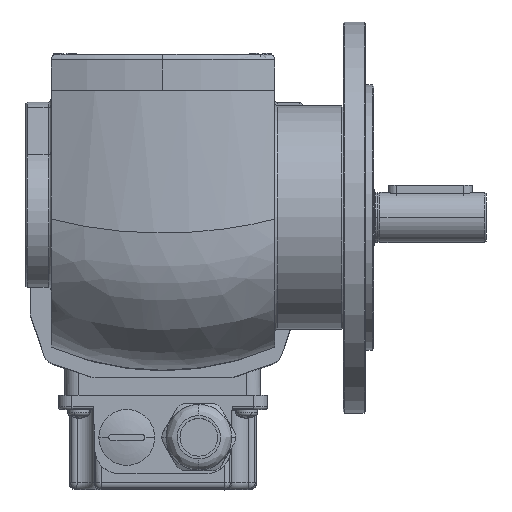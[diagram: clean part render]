
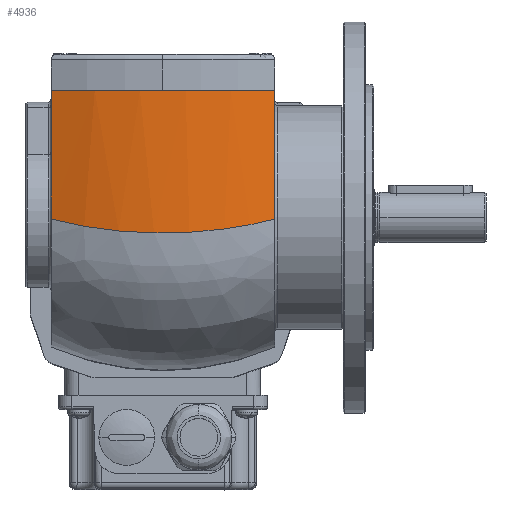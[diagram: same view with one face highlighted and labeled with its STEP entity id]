
A CAD part, top view. The second image highlights one B-rep face of the part: STEP entity #4936.
In plain terms, the highlighted cylindrical face has radius 109 mm (diameter 218 mm), a partial arc.
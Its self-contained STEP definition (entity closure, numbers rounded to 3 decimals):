
#343 = CYLINDRICAL_SURFACE ( 'NONE', #7375, 109. ) ;
#662 = FACE_OUTER_BOUND ( 'NONE', #7578, .T. ) ;
#799 = AXIS2_PLACEMENT_3D ( 'NONE', #12264, #5634, #17336 ) ;
#1603 = CARTESIAN_POINT ( 'NONE',  ( 5.074, 126.189, 26.289 ) ) ;
#1746 = CARTESIAN_POINT ( 'NONE',  ( 0.602, 119.395, 0. ) ) ;
#2009 = CARTESIAN_POINT ( 'NONE',  ( 54.6, 119.395, 0. ) ) ;
#3920 = CARTESIAN_POINT ( 'NONE',  ( 0.602, 119.395, 80. ) ) ;
#4072 = CARTESIAN_POINT ( 'NONE',  ( 3.088, 123.148, 68.771 ) ) ;
#4378 = CARTESIAN_POINT ( 'NONE',  ( 3.083, 123.141, 11.203 ) ) ;
#4529 = CARTESIAN_POINT ( 'NONE',  ( 4.76, 125.705, 22.898 ) ) ;
#4936 = ADVANCED_FACE ( 'NONE', ( #662 ), #343, .T. ) ;
#5227 = EDGE_CURVE ( 'NONE', #20145, #10106, #30149, .T. ) ;
#5524 = EDGE_CURVE ( 'NONE', #24273, #27996, #23431, .T. ) ;
#5634 = DIRECTION ( 'NONE',  ( 1., 0., 0. ) ) ;
#6367 = CARTESIAN_POINT ( 'NONE',  ( 3.762, 124.176, 15.335 ) ) ;
#6524 = CARTESIAN_POINT ( 'NONE',  ( 4.132, 124.742, 62.139 ) ) ;
#6824 = CARTESIAN_POINT ( 'NONE',  ( 5.494, 126.836, 33.111 ) ) ;
#7375 = AXIS2_PLACEMENT_3D ( 'NONE', #23864, #19112, #17116 ) ;
#7479 = EDGE_CURVE ( 'NONE', #10106, #27996, #16988, .T. ) ;
#7578 = EDGE_LOOP ( 'NONE', ( #30370, #19219, #22261, #18336 ) ) ;
#7880 = CARTESIAN_POINT ( 'NONE',  ( 0.602, 119.395, 0. ) ) ;
#8853 = VECTOR ( 'NONE', #9104, 1000. ) ;
#9006 = CARTESIAN_POINT ( 'NONE',  ( 3.37, 123.577, 12.846 ) ) ;
#9104 = DIRECTION ( 'NONE',  ( -1., 0., 0. ) ) ;
#9142 = B_SPLINE_CURVE_WITH_KNOTS ( 'NONE', 3,
 ( #3920, #15892, #20526, #4072, #30043, #16047, #6524, #13282, #30355, #25430, #25266, #28049, #30194, #9311, #6824, #1603, #4529, #20361, #25579, #27729, #6367, #9006, #4378, #16204, #27437, #1746 ),
 .UNSPECIFIED., .F., .F.,
 ( 4, 2, 2, 2, 2, 2, 2, 2, 2, 2, 2, 2, 4 ),
 ( 0., 0.01, 0.016, 0.021, 0.031, 0.036, 0.041, 0.052, 0.062, 0.065, 0.067, 0.073, 0.083 ),
 .UNSPECIFIED. ) ;
#9311 = CARTESIAN_POINT ( 'NONE',  ( 5.6, 127., 36.543 ) ) ;
#10106 = VERTEX_POINT ( 'NONE', #15599 ) ;
#12264 = CARTESIAN_POINT ( 'NONE',  ( -45.4, 18., 40. ) ) ;
#13282 = CARTESIAN_POINT ( 'NONE',  ( 4.758, 125.702, 57.117 ) ) ;
#14089 = CARTESIAN_POINT ( 'NONE',  ( 0.602, 119.395, 80. ) ) ;
#15599 = CARTESIAN_POINT ( 'NONE',  ( -45.4, 119.395, 0. ) ) ;
#15892 = CARTESIAN_POINT ( 'NONE',  ( 1.427, 120.63, 76.871 ) ) ;
#16047 = CARTESIAN_POINT ( 'NONE',  ( 3.897, 124.383, 63.804 ) ) ;
#16204 = CARTESIAN_POINT ( 'NONE',  ( 2.149, 121.722, 6.321 ) ) ;
#16949 = CARTESIAN_POINT ( 'NONE',  ( -45.4, 119.395, 80. ) ) ;
#16988 = CIRCLE ( 'NONE', #799, 109. ) ;
#17116 = DIRECTION ( 'NONE',  ( 0., 0., 1. ) ) ;
#17206 = VECTOR ( 'NONE', #18685, 1000. ) ;
#17336 = DIRECTION ( 'NONE',  ( 0., 0., 1. ) ) ;
#18336 = ORIENTED_EDGE ( 'NONE', *, *, #7479, .T. ) ;
#18685 = DIRECTION ( 'NONE',  ( -1., 0., 0. ) ) ;
#19112 = DIRECTION ( 'NONE',  ( -1., 0., 0. ) ) ;
#19219 = ORIENTED_EDGE ( 'NONE', *, *, #30347, .T. ) ;
#20145 = VERTEX_POINT ( 'NONE', #7880 ) ;
#20361 = CARTESIAN_POINT ( 'NONE',  ( 4.234, 124.899, 18.685 ) ) ;
#20526 = CARTESIAN_POINT ( 'NONE',  ( 2.151, 121.724, 73.673 ) ) ;
#22261 = ORIENTED_EDGE ( 'NONE', *, *, #5227, .T. ) ;
#23431 = LINE ( 'NONE', #26050, #17206 ) ;
#23864 = CARTESIAN_POINT ( 'NONE',  ( 54.6, 18., 40. ) ) ;
#24273 = VERTEX_POINT ( 'NONE', #14089 ) ;
#25266 = CARTESIAN_POINT ( 'NONE',  ( 5.467, 126.795, 46.902 ) ) ;
#25430 = CARTESIAN_POINT ( 'NONE',  ( 5.388, 126.672, 48.617 ) ) ;
#25579 = CARTESIAN_POINT ( 'NONE',  ( 4.122, 124.728, 17.843 ) ) ;
#26050 = CARTESIAN_POINT ( 'NONE',  ( 54.6, 119.395, 80. ) ) ;
#27437 = CARTESIAN_POINT ( 'NONE',  ( 1.427, 120.63, 3.129 ) ) ;
#27729 = CARTESIAN_POINT ( 'NONE',  ( 3.886, 124.366, 16.168 ) ) ;
#27996 = VERTEX_POINT ( 'NONE', #16949 ) ;
#28049 = CARTESIAN_POINT ( 'NONE',  ( 5.573, 126.959, 43.456 ) ) ;
#30043 = CARTESIAN_POINT ( 'NONE',  ( 3.376, 123.586, 67.119 ) ) ;
#30149 = LINE ( 'NONE', #2009, #8853 ) ;
#30194 = CARTESIAN_POINT ( 'NONE',  ( 5.6, 127., 41.721 ) ) ;
#30347 = EDGE_CURVE ( 'NONE', #24273, #20145, #9142, .T. ) ;
#30355 = CARTESIAN_POINT ( 'NONE',  ( 5.072, 126.185, 53.737 ) ) ;
#30370 = ORIENTED_EDGE ( 'NONE', *, *, #5524, .F. ) ;
